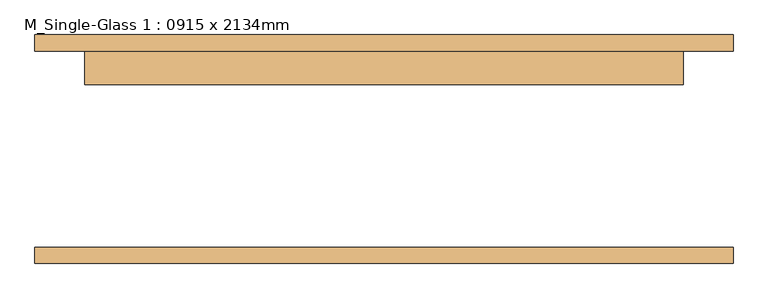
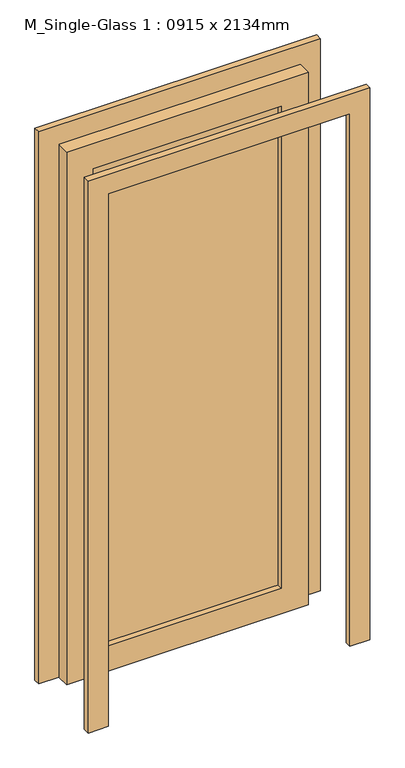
"""IFC4 building model written with IfcOpenShell, lengths in millimetres: door geometry, M_Single-Glass 1 : 0915 x 2134mm."""

from ifc_helpers import new_model, si_unit, frame, origin, place, context, project, spatial, polyline, outline, extrude, source, transform, mapped, element, save


def m_single_glass_1_0915_x_2134mm_64ff6fe7(model_context):
    return source(origin(), model_context, "Body", "SweptSolid", [
        extrude(outline(polyline([(2134.0, 457.5), (0.0, 457.5), (0.0, 533.5), (2210.0, 533.5), (2210.0, -533.5), (0.0, -533.5), (0.0, -457.5), (2134.0, -457.5), (2134.0, 457.5)])), frame((0.0, -175.0, 0.0), z_axis=(0.0, 1.0, 0.0), x_axis=(0.0, 0.0, 1.0)), (0.0, 0.0, 1.0), 25.0),
        extrude(outline(polyline([(2134.0, 457.5), (0.0, 457.5), (0.0, 533.5), (2210.0, 533.5), (2210.0, -533.5), (0.0, -533.5), (0.0, -457.5), (2134.0, -457.5), (2134.0, 457.5)])), frame((0.0, 150.0, 0.0), z_axis=(0.0, 1.0, 0.0), x_axis=(0.0, 0.0, 1.0)), (0.0, 0.0, 1.0), 25.0),
        extrude(outline(polyline([(355.5, 121.425), (-355.5, 121.425), (-355.5, 127.775), (355.5, 127.775), (355.5, 121.425)])), frame((0.0, 0.0, 102.0), z_axis=(0.0, 0.0, 1.0), x_axis=(1.0, 0.0, 0.0)), (0.0, 0.0, 1.0), 1930.0),
        extrude(outline(polyline([(2134.0, 457.5), (2134.0, -457.5), (0.0, -457.5), (0.0, 457.5), (2134.0, 457.5)]), holes=[polyline([(2032.0, -355.5), (2032.0, 355.5), (102.0, 355.5), (102.0, -355.5), (2032.0, -355.5)])]), frame((0.0, 99.0, 0.0), z_axis=(0.0, 1.0, 0.0), x_axis=(0.0, 0.0, 1.0)), (0.0, 0.0, 1.0), 51.0),
    ])


if __name__ == "__main__":
    model = new_model("IFC4")
    model_context = context("Model", 3, world=origin())
    ifc_project = project(units=[si_unit("LENGTHUNIT", "METRE", prefix="MILLI")], contexts=[model_context])
    site = spatial("IfcSite", under=ifc_project)
    building = spatial("IfcBuilding", under=site)
    placement = place(None, origin())
    m_single_glass_1_0915_x_2134mm_shape = m_single_glass_1_0915_x_2134mm_64ff6fe7(model_context)
    element("IfcDoor", 1, ObjectType="M_Single-Glass 1 : 0915 x 2134mm", at=placement, inside=building, context=model_context, shape_type="MappedRepresentation", body=[
        mapped(m_single_glass_1_0915_x_2134mm_shape, transform((0.0, 0.0, 0.0), x_axis=(1.0, 0.0, 0.0), y_axis=(0.0, 1.0, 0.0), z_axis=(0.0, 0.0, 1.0))),
    ])
    save(model, "model.ifc")
